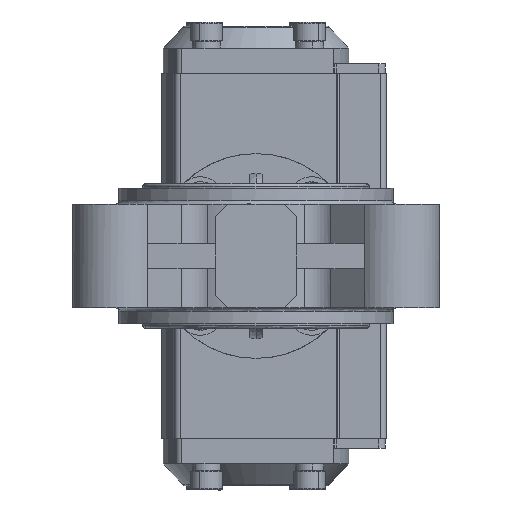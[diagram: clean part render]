
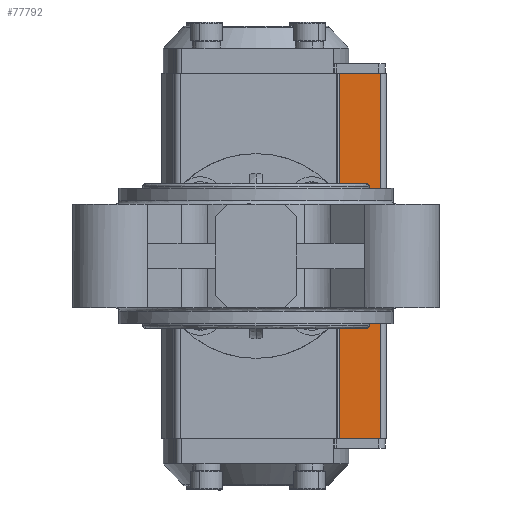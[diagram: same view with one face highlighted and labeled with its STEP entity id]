
A CAD part, front view. The second image highlights one B-rep face of the part: STEP entity #77792.
In plain terms, the highlighted planar face has unit normal (0, -1, 0).
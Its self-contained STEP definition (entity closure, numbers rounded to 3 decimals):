
#5898 = LINE ( 'NONE', #31526, #26328 ) ;
#6120 = CARTESIAN_POINT ( 'NONE',  ( 0., 157., -58. ) ) ;
#6429 = CARTESIAN_POINT ( 'NONE',  ( 39.5, 157., -58. ) ) ;
#7993 = PLANE ( 'NONE',  #33269 ) ;
#9823 = EDGE_CURVE ( 'NONE', #68488, #18703, #45686, .T. ) ;
#13409 = DIRECTION ( 'NONE',  ( 0., 0., -1. ) ) ;
#14698 = CARTESIAN_POINT ( 'NONE',  ( 26., 157., -58. ) ) ;
#14952 = CARTESIAN_POINT ( 'NONE',  ( 26.5, 157., -58. ) ) ;
#18703 = VERTEX_POINT ( 'NONE', #48737 ) ;
#21254 = VERTEX_POINT ( 'NONE', #6429 ) ;
#22111 = ORIENTED_EDGE ( 'NONE', *, *, #58508, .F. ) ;
#26213 = LINE ( 'NONE', #50379, #45724 ) ;
#26328 = VECTOR ( 'NONE', #13409, 1000. ) ;
#30159 = DIRECTION ( 'NONE',  ( 1., 0., 0. ) ) ;
#31347 = LINE ( 'NONE', #6120, #60457 ) ;
#31526 = CARTESIAN_POINT ( 'NONE',  ( 26.5, 157., -58. ) ) ;
#32239 = EDGE_LOOP ( 'NONE', ( #60729, #49260, #45159, #22111 ) ) ;
#32476 = CARTESIAN_POINT ( 'NONE',  ( 26.5, 157., 58. ) ) ;
#33269 = AXIS2_PLACEMENT_3D ( 'NONE', #14698, #56257, #68602 ) ;
#33835 = DIRECTION ( 'NONE',  ( 1., 0., 0. ) ) ;
#36522 = DIRECTION ( 'NONE',  ( 0., 0., -1. ) ) ;
#40778 = EDGE_CURVE ( 'NONE', #68488, #70536, #5898, .T. ) ;
#45159 = ORIENTED_EDGE ( 'NONE', *, *, #52317, .T. ) ;
#45686 = LINE ( 'NONE', #46472, #75986 ) ;
#45724 = VECTOR ( 'NONE', #36522, 1000. ) ;
#46472 = CARTESIAN_POINT ( 'NONE',  ( 0., 157., 58. ) ) ;
#48737 = CARTESIAN_POINT ( 'NONE',  ( 39.5, 157., 58. ) ) ;
#49260 = ORIENTED_EDGE ( 'NONE', *, *, #40778, .T. ) ;
#50379 = CARTESIAN_POINT ( 'NONE',  ( 39.5, 157., 209.218 ) ) ;
#52317 = EDGE_CURVE ( 'NONE', #70536, #21254, #31347, .T. ) ;
#56257 = DIRECTION ( 'NONE',  ( 0., -1., 0. ) ) ;
#58508 = EDGE_CURVE ( 'NONE', #18703, #21254, #26213, .T. ) ;
#60457 = VECTOR ( 'NONE', #30159, 1000. ) ;
#60729 = ORIENTED_EDGE ( 'NONE', *, *, #9823, .F. ) ;
#68192 = FACE_OUTER_BOUND ( 'NONE', #32239, .T. ) ;
#68488 = VERTEX_POINT ( 'NONE', #32476 ) ;
#68602 = DIRECTION ( 'NONE',  ( 0., 0., -1. ) ) ;
#70536 = VERTEX_POINT ( 'NONE', #14952 ) ;
#75986 = VECTOR ( 'NONE', #33835, 1000. ) ;
#77792 = ADVANCED_FACE ( 'NONE', ( #68192 ), #7993, .T. ) ;
